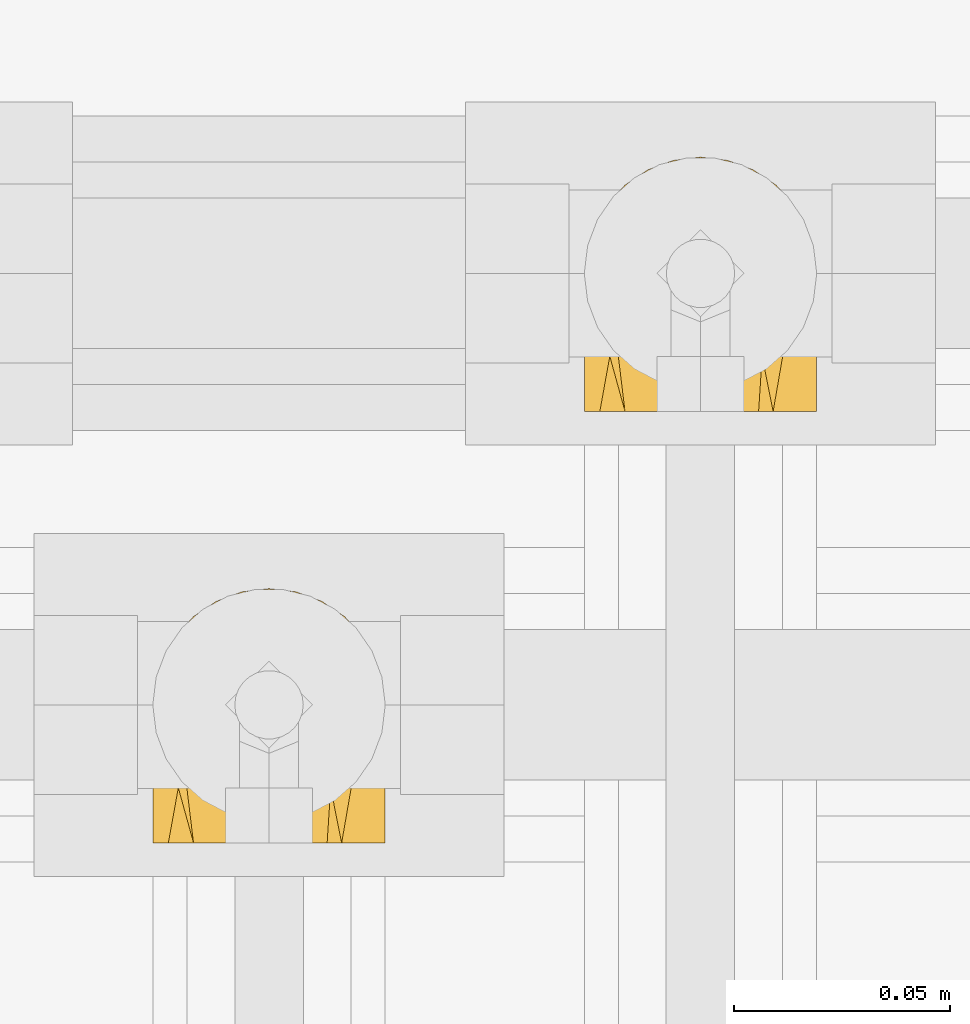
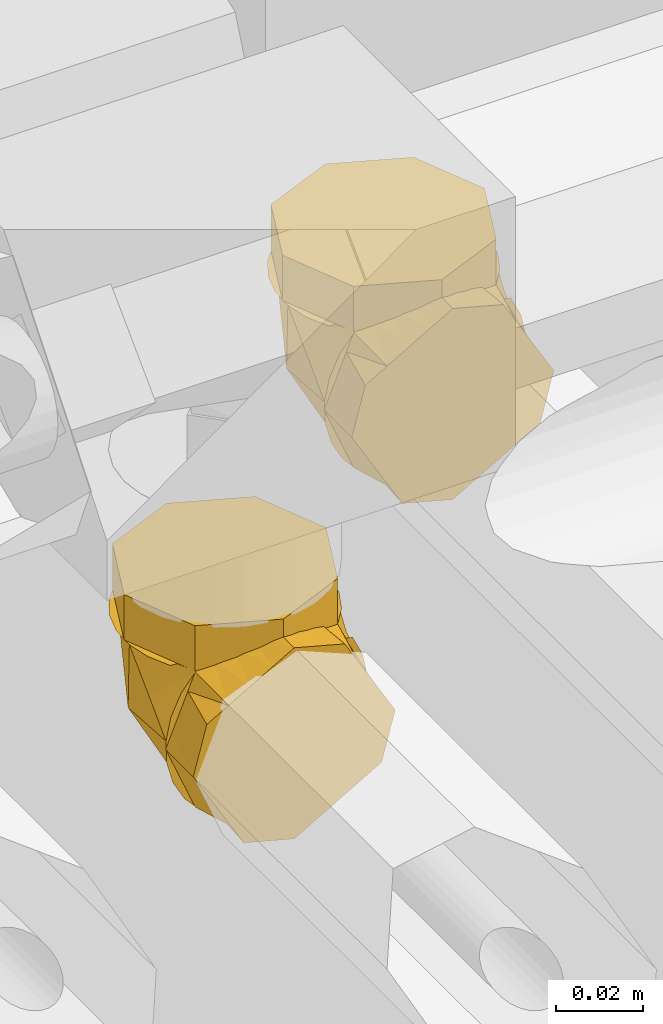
# One storey, part 363 of 652: 2 coverings.
"""IFC2X3 building model written with IfcOpenShell, lengths in millimetres."""

from ifc_helpers import new_model, entity, si_unit, converted_unit, direction, frame, origin, place, context, subcontext, project, spatial, face_set, surface_model, material, type_object, element, save


model = new_model("IFC2X3")

# Units and contexts
model_context = context("Model", 3, precision=0.01, world=frame((0.0, 0.0, 308426.39999999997)), true_north=direction((6.123233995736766e-17, 1.0)))
plan_context = context("Plan", 3, precision=0.01, world=frame((0.0, 0.0, 308426.39999999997)), true_north=direction((6.123233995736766e-17, 1.0)))
body_context = subcontext(model_context, "Body", "Model", "MODEL_VIEW")
ifc_project = project(units=[si_unit("LENGTHUNIT", "METRE", prefix="MILLI"), si_unit("AREAUNIT", "SQUARE_METRE"), si_unit("VOLUMEUNIT", "CUBIC_METRE"), converted_unit("PLANEANGLEUNIT", "DEGREE", entity("IfcPlaneAngleMeasure", 0.017453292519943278), si_unit("PLANEANGLEUNIT", "RADIAN"), dimensions=[0, 0, 0, 0, 0, 0, 0])], contexts=[model_context, plan_context])

# Site, building, storey
site_placement = place(None, origin())
site = spatial("IfcSite", under=ifc_project, at=site_placement, Name="Default", CompositionType="ELEMENT")
building_placement = place(site_placement, origin())
building = spatial("IfcBuilding", under=site, at=building_placement, CompositionType="ELEMENT")
storey_placement = place(building_placement, frame((0.0, 0.0, 1730.6999999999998)))
storey = spatial("IfcBuildingStorey", under=building, at=storey_placement, Name="EG_Produktion_FFB", CompositionType="ELEMENT", Elevation=1730.6999999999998)

# Coverings
ifc_material = material(Name="Dämmung - Armaflex-Schlauch")
covering_type = type_object("IfcCoveringType", Name="Rohrdämmung außen:Armaflex-Schlauch", PredefinedType="INSULATION")
covering_1_placement = place(storey_placement, frame((64741.46722776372, 41593.014699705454, 3671.4672277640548)))
element("IfcCovering", 1, at=covering_1_placement, inside=storey, type_object=covering_type, material=ifc_material, Name="Rohrdämmung außen:Armaflex-Schlauch", ObjectType="Rohrdämmung außen:Armaflex-Schlauch", PredefinedType="INSULATION", context=body_context, shape_type="SurfaceModel", body=[
    surface_model("IfcFaceBasedSurfaceModel", [(47.409122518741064, 12.766249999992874, 47.750272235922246), (51.38658262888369, 17.724287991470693, 47.750272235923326), (54.0915642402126, 23.47627931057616, 47.750272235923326), (55.37345654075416, 29.70195853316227, 47.75027223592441), (55.16088498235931, 36.054685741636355, 47.75027223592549), (53.465685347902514, 42.1807471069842, 47.75027223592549), (50.38224474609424, 47.7390493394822, 47.75027223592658), (46.08224622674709, 52.420111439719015, 47.75027223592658), (40.8051096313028, 55.963296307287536, 47.75027223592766), (34.844660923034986, 58.17132276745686, 47.75027223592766), (28.532772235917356, 58.921249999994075, 47.75027223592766), (22.220883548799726, 58.17132276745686, 47.75027223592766), (16.26043484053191, 55.963296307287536, 47.75027223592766), (10.983298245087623, 52.420111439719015, 47.75027223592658), (6.683299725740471, 47.7390493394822, 47.75027223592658), (3.599859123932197, 42.1807471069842, 47.75027223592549), (1.904659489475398, 36.054685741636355, 47.75027223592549), (1.6920879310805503, 29.70195853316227, 47.75027223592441), (2.973980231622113, 23.47627931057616, 47.750272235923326), (5.678961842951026, 17.724287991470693, 47.750272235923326), (9.65642195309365, 12.766249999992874, 47.750272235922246), (5.678961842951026, 12.766249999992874, 42.79223424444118), (2.973980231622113, 12.766249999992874, 37.04024292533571), (1.6920879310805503, 12.766249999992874, 30.81456370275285), (1.904659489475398, 12.766249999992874, 24.46183649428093), (3.599859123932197, 12.766249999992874, 18.335775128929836), (6.683299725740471, 12.766249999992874, 12.777472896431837), (10.983298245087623, 12.766250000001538, 8.096410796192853), (16.26043484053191, 12.766250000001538, 4.5532259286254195), (22.220883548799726, 12.766250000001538, 2.3451994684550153), (28.532772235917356, 12.766250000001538, 1.5952722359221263), (34.844660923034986, 12.766250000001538, 2.3451994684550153), (40.8051096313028, 12.766250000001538, 4.553225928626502), (46.08224622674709, 12.766250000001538, 8.096410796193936), (50.38224474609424, 12.766249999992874, 12.777472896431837), (53.465685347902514, 12.766249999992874, 18.33577512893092), (55.16088498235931, 12.766249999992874, 24.46183649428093), (55.37345654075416, 12.766249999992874, 30.81456370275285), (54.0915642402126, 12.766249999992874, 37.04024292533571), (51.38658262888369, 12.766249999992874, 42.79223424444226), (54.78698366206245, 21.445200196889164, 37.807698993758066), (28.5327722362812, 52.73631347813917, 24.673035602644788), (53.46613405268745, 33.565390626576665, 26.950803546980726), (50.7267663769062, 41.06260742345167, 47.75011537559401), (28.5327722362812, 31.030661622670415, 12.1400796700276), (42.77841432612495, 41.843955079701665, 17.332785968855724), (50.7267663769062, 12.766660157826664, 19.45533082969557), (14.287130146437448, 41.843955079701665, 17.332785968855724), (2.278560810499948, 21.445200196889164, 37.807698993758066), (3.5994104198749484, 33.565390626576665, 26.950803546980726), (6.338778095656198, 12.766660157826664, 19.45533082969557), (6.338778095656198, 41.06260742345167, 47.75011537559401), (42.81853892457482, 53.00389168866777, 60.51652223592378), (38.056616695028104, 54.97634445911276, 60.5165222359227), (33.29469446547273, 56.94879722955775, 60.5165222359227), (28.532772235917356, 58.921250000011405, 60.5165222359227), (23.77085000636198, 56.94879722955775, 60.5165222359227), (19.008927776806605, 54.97634445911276, 60.5165222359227), (14.247005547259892, 53.00389168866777, 60.51652223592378), (9.485083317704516, 51.03143891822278, 60.51652223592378), (7.512630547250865, 46.26951668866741, 60.51652223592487), (5.540177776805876, 41.507594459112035, 60.51652223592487), (3.567725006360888, 36.74567222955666, 60.51652223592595), (1.5952722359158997, 31.983750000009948, 60.516522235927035), (3.567725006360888, 27.221827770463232, 60.516522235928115), (5.540177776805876, 22.459905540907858, 60.516522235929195), (7.512630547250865, 17.697983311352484, 60.516522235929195), (9.485083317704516, 12.936061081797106, 60.51652223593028), (14.247005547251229, 10.963608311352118, 60.51652223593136), (19.008927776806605, 8.99115554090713, 60.51652223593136), (23.77085000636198, 7.018702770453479, 60.51652223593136), (28.532772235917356, 5.046250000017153, 60.51652223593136), (33.29469446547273, 7.018702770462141, 60.51652223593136), (38.056616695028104, 8.99115554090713, 60.51652223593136), (42.81853892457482, 10.963608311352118, 60.51652223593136), (47.5804611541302, 12.936061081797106, 60.51652223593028), (49.55291392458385, 17.697983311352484, 60.516522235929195), (51.525366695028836, 22.459905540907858, 60.516522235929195), (53.49781946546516, 27.22182777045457, 60.516522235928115), (55.47027223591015, 31.983750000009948, 60.516522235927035), (53.497819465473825, 36.74567222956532, 60.51652223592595), (51.525366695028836, 41.507594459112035, 60.51652223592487), (49.55291392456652, 46.26951668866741, 60.51652223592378), (47.5804611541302, 51.03143891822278, 60.51652223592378), (28.532772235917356, 58.92125000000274, 47.75027223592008), (33.29469446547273, 56.948797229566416, 47.75027223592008), (38.056616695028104, 54.97634445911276, 47.750272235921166), (42.81853892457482, 53.00389168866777, 47.750272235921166), (47.5804611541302, 51.03143891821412, 47.750272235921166), (49.96980627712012, 45.26304951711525, 47.750272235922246), (52.35915140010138, 39.49466011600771, 47.750272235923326), (55.47027223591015, 31.983750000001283, 47.75027223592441), (53.497819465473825, 27.22182777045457, 47.75027223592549), (51.525366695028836, 22.459905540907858, 47.75027223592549), (49.552913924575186, 17.697983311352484, 47.75027223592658), (47.5804611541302, 12.936061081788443, 47.75027223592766), (41.81207175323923, 10.546715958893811, 47.75027223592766), (36.0436823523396, 8.157370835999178, 47.75027223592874), (28.532772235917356, 5.046250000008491, 47.75027223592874), (23.77085000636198, 7.018702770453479, 47.75027223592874), (19.008927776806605, 8.99115554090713, 47.75027223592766), (14.247005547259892, 10.963608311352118, 47.75027223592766), (9.485083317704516, 12.936061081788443, 47.75027223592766), (7.095738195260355, 18.704450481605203, 47.75027223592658), (4.706393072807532, 24.472839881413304, 47.75027223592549), (1.5952722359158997, 31.983750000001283, 47.75027223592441), (3.567725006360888, 36.74567222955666, 47.750272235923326), (5.540177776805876, 41.507594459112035, 47.750272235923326), (7.512630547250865, 46.26951668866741, 47.750272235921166), (9.485083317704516, 51.03143891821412, 47.750272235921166), (15.253472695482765, 53.420784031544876, 47.750272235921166), (21.021862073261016, 55.810129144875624, 47.75027223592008), (28.532772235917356, 0.0, 1.595272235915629), (34.36491206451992, 0.0, 4.962459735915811), (40.197051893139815, 0.0, 8.329647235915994), (46.02919172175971, 0.0, 11.696834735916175), (51.86133155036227, 0.0, 15.064022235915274), (53.66580189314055, 0.0, 21.798397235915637), (55.47027223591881, 0.0, 28.532772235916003), (52.10308473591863, 0.0, 34.36491206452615), (48.73589723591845, 0.0, 40.19705189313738), (45.368709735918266, 0.0, 46.02919172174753), (42.00152223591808, 0.0, 51.861331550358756), (35.26714723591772, 0.0, 53.66580189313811), (28.532772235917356, 0.0, 55.470272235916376), (22.700632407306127, 0.0, 52.10308473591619), (16.868492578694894, 0.0, 48.73589723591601), (11.036352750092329, 0.0, 45.36870973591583), (5.204212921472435, 0.0, 42.00152223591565), (3.3997425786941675, 0.0, 35.26714723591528), (1.5952722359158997, 0.0, 28.532772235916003), (4.962459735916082, 0.0, 22.700632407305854), (8.329647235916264, 0.0, 16.868492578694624), (11.696834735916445, 0.0, 11.036352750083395), (15.064022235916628, 0.0, 5.204212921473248), (21.79839723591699, 0.0, 3.399742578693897), (28.532772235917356, 12.766250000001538, 1.595272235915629), (23.77085000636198, 12.766250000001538, 3.567725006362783), (19.008927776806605, 12.766250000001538, 5.540177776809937), (14.247005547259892, 12.766250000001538, 7.512630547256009), (9.485083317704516, 12.766250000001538, 9.485083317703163), (7.512630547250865, 12.766250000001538, 14.247005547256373), (5.540177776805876, 12.766250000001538, 19.008927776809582), (3.567725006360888, 12.766250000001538, 23.770850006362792), (1.5952722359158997, 12.766250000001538, 28.532772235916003), (3.567725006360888, 12.766250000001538, 33.29469446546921), (5.540177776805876, 12.766250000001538, 38.05661669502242), (7.512630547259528, 12.766250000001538, 42.818538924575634), (9.485083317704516, 12.766250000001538, 47.58046115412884), (14.247005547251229, 12.766250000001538, 49.552913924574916), (19.008927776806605, 12.766250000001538, 51.525366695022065), (23.77085000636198, 12.766250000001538, 53.49781946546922), (28.532772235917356, 12.766250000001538, 55.470272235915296), (33.29469446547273, 12.766250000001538, 53.49781946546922), (38.056616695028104, 12.766250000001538, 51.525366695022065), (42.818538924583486, 12.766250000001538, 49.552913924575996), (47.5804611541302, 12.766250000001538, 47.58046115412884), (49.552913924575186, 12.766250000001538, 42.818538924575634), (51.525366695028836, 12.766250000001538, 38.05661669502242), (53.497819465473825, 12.766250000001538, 33.29469446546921), (55.47027223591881, 12.766250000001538, 28.532772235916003), (53.497819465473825, 12.766250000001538, 23.770850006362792), (51.525366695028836, 12.766250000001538, 19.008927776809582), (49.552913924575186, 12.766250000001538, 14.24700554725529), (47.5804611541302, 12.766250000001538, 9.485083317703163), (42.81853892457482, 12.766250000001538, 7.512630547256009), (38.056616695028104, 12.766250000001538, 5.540177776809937), (33.29469446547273, 12.766250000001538, 3.567725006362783)], [face_set([[[0, 1, 2, 3, 4, 5, 6, 7, 8, 9, 10, 11, 12, 13, 14, 15, 16, 17, 18, 19]], [[20, 21, 22, 23, 24, 25, 26, 27, 28, 29, 30, 31, 32, 33, 34, 35, 36, 37, 38, 39]], [[0, 40, 3]], [[10, 7, 41]], [[37, 42, 40]], [[42, 7, 43]], [[37, 40, 0]], [[3, 40, 42]], [[44, 41, 45]], [[7, 45, 41]], [[33, 30, 44]], [[44, 45, 33]], [[42, 33, 45]], [[42, 37, 46, 33]], [[7, 42, 45]], [[43, 3, 42]], [[13, 10, 41]], [[27, 47, 44]], [[44, 30, 27]], [[48, 49, 23]], [[49, 27, 50, 23]], [[17, 49, 48]], [[44, 47, 41]], [[20, 48, 23]], [[47, 49, 13]], [[17, 48, 20]], [[41, 47, 13]], [[49, 17, 51]], [[27, 49, 47]], [[51, 13, 49]]]), face_set([[[52, 53, 54, 55, 56, 57, 58, 59, 60, 61, 62, 63, 64, 65, 66, 67, 68, 69, 70, 71, 72, 73, 74, 75, 76, 77, 78, 79, 80, 81, 82, 83]], [[84, 85, 86, 87, 88, 89, 90, 91, 92, 93, 94, 95, 96, 97, 98, 99, 100, 101, 102, 103, 104, 105, 106, 107, 108, 109, 110, 111]], [[111, 110, 109, 59, 58, 57, 56, 55, 84]], [[59, 109, 108, 107, 106, 105, 63, 62, 61, 60]], [[104, 103, 102, 67, 66, 65, 64, 63, 105]], [[67, 102, 101, 100, 99, 98, 71, 70, 69, 68]], [[97, 96, 95, 75, 74, 73, 72, 71, 98]], [[75, 95, 94, 93, 92, 91, 79, 78, 77, 76]], [[90, 89, 88, 83, 82, 81, 80, 79, 91]], [[83, 88, 87, 86, 85, 84, 55, 54, 53, 52]]]), face_set([[[112, 113, 114, 115, 116, 117, 118, 119, 120, 121, 122, 123, 124, 125, 126, 127, 128, 129, 130, 131, 132, 133, 134, 135]], [[136, 137, 138, 139, 140, 141, 142, 143, 144, 145, 146, 147, 148, 149, 150, 151, 152, 153, 154, 155, 156, 157, 158, 159, 160, 161, 162, 163, 164, 165, 166, 167]], [[155, 121, 156]], [[118, 159, 119]], [[159, 158, 119]], [[123, 154, 153]], [[153, 152, 124]], [[121, 155, 122]], [[120, 158, 157]], [[118, 160, 159]], [[158, 120, 119]], [[124, 123, 153]], [[157, 156, 121]], [[155, 154, 122]], [[123, 122, 154]], [[120, 157, 121]], [[163, 115, 164]], [[112, 167, 113]], [[167, 166, 113]], [[117, 162, 161]], [[161, 160, 118]], [[115, 163, 116]], [[114, 166, 165]], [[112, 136, 167]], [[166, 114, 113]], [[118, 117, 161]], [[165, 164, 115]], [[163, 162, 116]], [[117, 116, 162]], [[114, 165, 115]], [[139, 133, 140]], [[130, 143, 131]], [[143, 142, 131]], [[135, 138, 137]], [[137, 136, 112]], [[133, 139, 134]], [[132, 142, 141]], [[130, 144, 143]], [[142, 132, 131]], [[112, 135, 137]], [[141, 140, 133]], [[139, 138, 134]], [[135, 134, 138]], [[132, 141, 133]], [[147, 127, 148]], [[124, 151, 125]], [[151, 150, 125]], [[129, 146, 145]], [[145, 144, 130]], [[127, 147, 128]], [[126, 150, 149]], [[124, 152, 151]], [[150, 126, 125]], [[130, 129, 145]], [[149, 148, 127]], [[147, 146, 128]], [[129, 128, 146]], [[126, 149, 127]]])]),
])
covering_2_placement = place(storey_placement, frame((64641.46722776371, 41493.01469970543, 3671.4672277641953)))
element("IfcCovering", 2, at=covering_2_placement, inside=storey, type_object=covering_type, material=ifc_material, Name="Rohrdämmung außen:Armaflex-Schlauch", ObjectType="Rohrdämmung außen:Armaflex-Schlauch", PredefinedType="INSULATION", context=body_context, shape_type="SurfaceModel", body=[
    surface_model("IfcFaceBasedSurfaceModel", [(47.409122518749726, 12.766249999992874, 47.750272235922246), (51.38658262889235, 17.724287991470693, 47.750272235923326), (54.09156424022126, 23.47627931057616, 47.750272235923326), (55.373456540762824, 29.70195853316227, 47.75027223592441), (55.160884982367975, 36.054685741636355, 47.75027223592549), (53.465685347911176, 42.1807471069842, 47.75027223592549), (50.382244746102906, 47.7390493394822, 47.75027223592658), (46.08224622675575, 52.420111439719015, 47.75027223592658), (40.80510963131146, 55.963296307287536, 47.75027223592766), (34.84466092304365, 58.17132276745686, 47.75027223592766), (28.532772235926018, 58.921249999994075, 47.75027223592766), (22.220883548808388, 58.17132276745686, 47.75027223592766), (16.260434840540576, 55.963296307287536, 47.75027223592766), (10.983298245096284, 52.420111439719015, 47.75027223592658), (6.6832997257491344, 47.7390493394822, 47.75027223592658), (3.5998591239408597, 42.1807471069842, 47.75027223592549), (1.904659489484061, 36.054685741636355, 47.75027223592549), (1.6920879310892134, 29.70195853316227, 47.75027223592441), (2.973980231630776, 23.47627931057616, 47.750272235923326), (5.678961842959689, 17.724287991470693, 47.750272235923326), (9.656421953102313, 12.766249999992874, 47.750272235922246), (5.678961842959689, 12.766249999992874, 42.79223424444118), (2.973980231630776, 12.766249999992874, 37.04024292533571), (1.6920879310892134, 12.766249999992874, 30.81456370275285), (1.904659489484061, 12.766249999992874, 24.46183649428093), (3.5998591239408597, 12.766249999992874, 18.335775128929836), (6.6832997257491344, 12.766249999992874, 12.777472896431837), (10.983298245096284, 12.766250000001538, 8.096410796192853), (16.260434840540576, 12.766250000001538, 4.5532259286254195), (22.220883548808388, 12.766250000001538, 2.3451994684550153), (28.532772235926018, 12.766250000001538, 1.5952722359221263), (34.84466092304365, 12.766250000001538, 2.3451994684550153), (40.80510963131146, 12.766250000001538, 4.553225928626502), (46.08224622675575, 12.766250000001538, 8.096410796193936), (50.382244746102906, 12.766249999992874, 12.777472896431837), (53.465685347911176, 12.766249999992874, 18.33577512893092), (55.160884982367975, 12.766249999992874, 24.46183649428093), (55.373456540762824, 12.766249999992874, 30.81456370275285), (54.09156424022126, 12.766249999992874, 37.04024292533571), (51.38658262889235, 12.766249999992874, 42.79223424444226), (54.788436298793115, 21.44665283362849, 37.807698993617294), (28.534224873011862, 52.73776611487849, 24.673035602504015), (53.46758668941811, 33.566843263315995, 26.950803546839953), (50.72821901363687, 41.05940918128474, 47.750115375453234), (28.534224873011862, 31.03211425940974, 12.140079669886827), (42.779866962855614, 41.84075683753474, 17.33278596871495), (50.72821901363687, 12.768112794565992, 19.455330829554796), (14.283931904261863, 41.84075683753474, 17.33278596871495), (2.2753625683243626, 21.44665283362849, 37.807698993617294), (3.600863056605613, 33.566843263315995, 26.950803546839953), (6.3355798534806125, 12.768112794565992, 19.455330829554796), (6.3355798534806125, 41.05940918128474, 47.750115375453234), (42.818538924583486, 53.00389168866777, 60.51652223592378), (38.056616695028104, 54.97634445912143, 60.5165222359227), (33.29469446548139, 56.948797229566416, 60.5165222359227), (28.532772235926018, 58.921250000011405, 60.5165222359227), (23.770850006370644, 56.948797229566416, 60.5165222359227), (19.00892777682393, 54.97634445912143, 60.5165222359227), (14.247005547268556, 53.00389168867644, 60.51652223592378), (9.48508331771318, 51.03143891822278, 60.51652223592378), (7.512630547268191, 46.26951668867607, 60.51652223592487), (5.540177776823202, 41.507594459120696, 60.51652223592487), (3.567725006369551, 36.74567222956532, 60.51652223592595), (1.5952722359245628, 31.983750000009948, 60.516522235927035), (3.567725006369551, 27.22182777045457, 60.516522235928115), (5.540177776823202, 22.459905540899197, 60.516522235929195), (7.512630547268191, 17.69798331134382, 60.516522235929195), (9.48508331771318, 12.936061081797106, 60.51652223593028), (14.247005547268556, 10.963608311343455, 60.51652223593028), (19.00892777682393, 8.991155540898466, 60.51652223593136), (23.770850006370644, 7.018702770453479, 60.51652223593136), (28.532772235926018, 5.046250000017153, 60.51652223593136), (33.29469446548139, 7.018702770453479, 60.51652223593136), (38.056616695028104, 8.991155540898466, 60.51652223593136), (42.818538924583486, 10.963608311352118, 60.51652223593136), (47.58046115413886, 12.936061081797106, 60.51652223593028), (49.55291392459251, 17.69798331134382, 60.516522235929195), (51.525366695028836, 22.459905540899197, 60.516522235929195), (53.497819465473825, 27.22182777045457, 60.516522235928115), (55.47027223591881, 31.983750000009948, 60.516522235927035), (53.497819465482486, 36.74567222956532, 60.51652223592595), (51.525366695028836, 41.507594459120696, 60.51652223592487), (49.55291392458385, 46.26951668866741, 60.51652223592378), (47.58046115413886, 51.03143891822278, 60.51652223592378), (28.532772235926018, 58.92125000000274, 47.75027223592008), (33.29469446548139, 56.948797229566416, 47.75027223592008), (38.056616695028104, 54.97634445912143, 47.750272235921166), (42.818538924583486, 53.00389168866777, 47.750272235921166), (47.58046115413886, 51.03143891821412, 47.750272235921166), (49.96980627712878, 45.26304951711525, 47.750272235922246), (52.35915140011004, 39.49466011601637, 47.750272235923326), (55.47027223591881, 31.983750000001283, 47.75027223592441), (53.497819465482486, 27.22182777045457, 47.75027223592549), (51.525366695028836, 22.459905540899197, 47.75027223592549), (49.55291392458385, 17.69798331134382, 47.75027223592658), (47.58046115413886, 12.936061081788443, 47.75027223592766), (41.81207175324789, 10.546715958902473, 47.75027223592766), (36.04368235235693, 8.157370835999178, 47.75027223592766), (28.532772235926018, 5.046250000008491, 47.75027223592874), (23.770850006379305, 7.018702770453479, 47.75027223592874), (19.00892777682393, 8.991155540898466, 47.75027223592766), (14.247005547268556, 10.963608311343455, 47.75027223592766), (9.48508331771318, 12.936061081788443, 47.75027223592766), (7.095738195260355, 18.704450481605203, 47.75027223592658), (4.706393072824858, 24.472839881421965, 47.75027223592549), (1.5952722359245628, 31.983750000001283, 47.75027223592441), (3.567725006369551, 36.74567222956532, 47.750272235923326), (5.540177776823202, 41.507594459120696, 47.750272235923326), (7.512630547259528, 46.26951668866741, 47.750272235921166), (9.48508331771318, 51.03143891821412, 47.750272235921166), (15.253472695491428, 53.42078403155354, 47.750272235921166), (21.021862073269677, 55.810129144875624, 47.750272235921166), (28.532772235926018, 0.0, 1.595272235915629), (34.36491206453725, 0.0, 4.962459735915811), (40.197051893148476, 0.0, 8.329647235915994), (46.02919172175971, 0.0, 11.696834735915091), (51.86133155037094, 0.0, 15.064022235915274), (53.66580189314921, 0.0, 21.798397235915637), (55.470272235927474, 0.0, 28.532772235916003), (52.10308473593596, 0.0, 34.36491206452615), (48.73589723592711, 0.0, 40.19705189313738), (45.368709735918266, 0.0, 46.02919172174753), (42.00152223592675, 0.0, 51.861331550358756), (35.26714723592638, 0.0, 53.66580189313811), (28.532772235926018, 0.0, 55.470272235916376), (22.70063240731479, 0.0, 52.10308473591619), (16.86849257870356, 0.0, 48.73589723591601), (11.036352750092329, 0.0, 45.36870973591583), (5.204212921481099, 0.0, 42.00152223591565), (3.399742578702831, 0.0, 35.26714723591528), (1.5952722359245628, 0.0, 28.532772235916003), (4.962459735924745, 0.0, 22.700632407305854), (8.329647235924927, 0.0, 16.868492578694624), (11.696834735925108, 0.0, 11.036352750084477), (15.064022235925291, 0.0, 5.204212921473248), (21.798397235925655, 0.0, 3.399742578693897), (28.532772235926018, 12.766250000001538, 1.595272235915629), (23.770850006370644, 12.766250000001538, 3.567725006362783), (19.00892777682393, 12.766250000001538, 5.540177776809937), (14.247005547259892, 12.766249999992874, 7.512630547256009), (9.48508331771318, 12.766250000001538, 9.485083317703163), (7.512630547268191, 12.766250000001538, 14.247005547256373), (5.540177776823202, 12.766250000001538, 19.008927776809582), (3.567725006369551, 12.766250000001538, 23.770850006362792), (1.5952722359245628, 12.766250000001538, 28.532772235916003), (3.567725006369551, 12.766250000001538, 33.29469446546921), (5.540177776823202, 12.766250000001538, 38.05661669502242), (7.512630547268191, 12.766250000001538, 42.818538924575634), (9.48508331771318, 12.766250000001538, 47.58046115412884), (14.247005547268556, 12.766250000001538, 49.552913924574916), (19.00892777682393, 12.766250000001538, 51.525366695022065), (23.770850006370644, 12.766250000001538, 53.49781946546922), (28.532772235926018, 12.766250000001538, 55.470272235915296), (33.29469446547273, 12.766250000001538, 53.49781946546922), (38.056616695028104, 12.766250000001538, 51.525366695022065), (42.81853892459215, 12.766250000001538, 49.552913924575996), (47.58046115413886, 12.766250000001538, 47.58046115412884), (49.55291392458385, 12.766250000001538, 42.818538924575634), (51.525366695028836, 12.766250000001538, 38.05661669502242), (53.497819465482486, 12.766250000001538, 33.29469446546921), (55.470272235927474, 12.766250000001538, 28.532772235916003), (53.497819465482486, 12.766250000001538, 23.770850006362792), (51.525366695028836, 12.766250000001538, 19.008927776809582), (49.55291392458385, 12.766249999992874, 14.24700554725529), (47.58046115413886, 12.766250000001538, 9.485083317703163), (42.818538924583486, 12.766250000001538, 7.512630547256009), (38.056616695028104, 12.766250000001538, 5.540177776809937), (33.29469446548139, 12.766249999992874, 3.567725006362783)], [face_set([[[0, 1, 2, 3, 4, 5, 6, 7, 8, 9, 10, 11, 12, 13, 14, 15, 16, 17, 18, 19]], [[20, 21, 22, 23, 24, 25, 26, 27, 28, 29, 30, 31, 32, 33, 34, 35, 36, 37, 38, 39]], [[0, 40, 3]], [[10, 7, 41]], [[37, 42, 40]], [[42, 7, 43]], [[37, 40, 0]], [[3, 40, 42]], [[44, 41, 45]], [[7, 45, 41]], [[33, 30, 44]], [[44, 45, 33]], [[42, 33, 45]], [[42, 37, 46, 33]], [[7, 42, 45]], [[43, 3, 42]], [[13, 10, 41]], [[27, 47, 44]], [[44, 30, 27]], [[48, 49, 23]], [[49, 27, 50]], [[17, 49, 48]], [[44, 47, 41]], [[20, 48, 23]], [[47, 49, 13]], [[17, 48, 20]], [[41, 47, 13]], [[49, 17, 51]], [[27, 49, 47]], [[50, 23, 49]], [[51, 13, 49]]]), face_set([[[52, 53, 54, 55, 56, 57, 58, 59, 60, 61, 62, 63, 64, 65, 66, 67, 68, 69, 70, 71, 72, 73, 74, 75, 76, 77, 78, 79, 80, 81, 82, 83]], [[84, 85, 86, 87, 88, 89, 90, 91, 92, 93, 94, 95, 96, 97, 98, 99, 100, 101, 102, 103, 104, 105, 106, 107, 108, 109, 110, 111]], [[111, 110, 109, 59, 58, 57, 56, 55, 84]], [[59, 109, 108, 107, 106, 105, 63, 62, 61, 60]], [[104, 103, 102, 67, 66, 65, 64, 63, 105]], [[67, 102, 101, 100, 99, 98, 71, 70, 69, 68]], [[97, 96, 95, 75, 74, 73, 72, 71, 98]], [[75, 95, 94, 93, 92, 91, 79, 78, 77, 76]], [[90, 89, 88, 83, 82, 81, 80, 79, 91]], [[83, 88, 87, 86, 85, 84, 55, 54, 53, 52]]]), face_set([[[112, 113, 114, 115, 116, 117, 118, 119, 120, 121, 122, 123, 124, 125, 126, 127, 128, 129, 130, 131, 132, 133, 134, 135]], [[136, 137, 138, 139, 140, 141, 142, 143, 144, 145, 146, 147, 148, 149, 150, 151, 152, 153, 154, 155, 156, 157, 158, 159, 160, 161, 162, 163, 164, 165, 166, 167]], [[155, 121, 156]], [[118, 159, 119]], [[159, 158, 119]], [[123, 154, 153]], [[153, 152, 124]], [[121, 155, 122]], [[120, 158, 157]], [[118, 160, 159]], [[158, 120, 119]], [[124, 123, 153]], [[157, 156, 121]], [[155, 154, 122]], [[123, 122, 154]], [[120, 157, 121]], [[163, 115, 164]], [[112, 167, 113]], [[167, 166, 113]], [[117, 162, 161]], [[161, 160, 118]], [[115, 163, 116]], [[114, 166, 165]], [[112, 136, 167]], [[166, 114, 113]], [[118, 117, 161]], [[165, 164, 115]], [[163, 162, 116]], [[117, 116, 162]], [[114, 165, 115]], [[139, 133, 140]], [[130, 143, 131]], [[143, 142, 131]], [[135, 138, 137]], [[137, 136, 112]], [[133, 139, 134]], [[132, 142, 141]], [[130, 144, 143]], [[142, 132, 131]], [[112, 135, 137]], [[141, 140, 133]], [[139, 138, 134]], [[135, 134, 138]], [[132, 141, 133]], [[147, 127, 148]], [[124, 151, 125]], [[151, 150, 125]], [[129, 146, 145]], [[145, 144, 130]], [[127, 147, 128]], [[126, 150, 149]], [[124, 152, 151]], [[150, 126, 125]], [[130, 129, 145]], [[149, 148, 127]], [[147, 146, 128]], [[129, 128, 146]], [[126, 149, 127]]])]),
])

save(model, "model.ifc")
